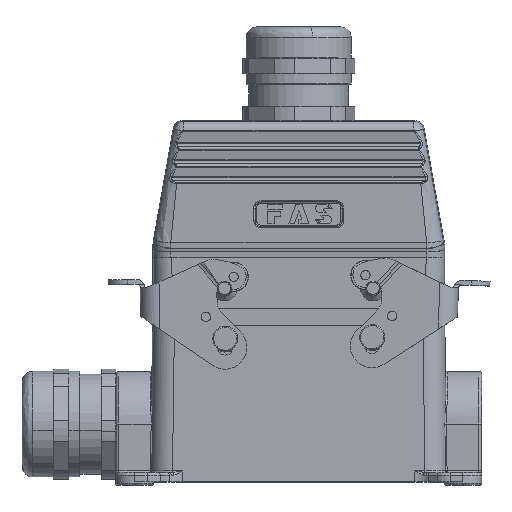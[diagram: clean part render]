
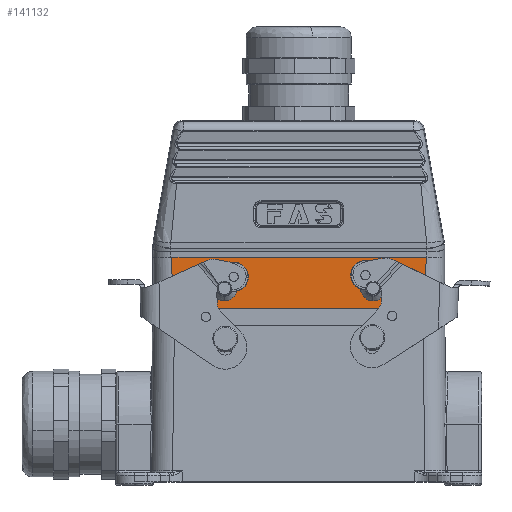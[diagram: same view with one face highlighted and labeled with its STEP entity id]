
A CAD part, top view. The second image highlights one B-rep face of the part: STEP entity #141132.
In plain terms, the highlighted planar face has unit normal (0, 0, 1) as drawn and (0, -1, 0) by its records, which use the part's own axes.
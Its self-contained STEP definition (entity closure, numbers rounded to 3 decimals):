
#1984 = EDGE_LOOP ( 'NONE', ( #87911, #29042, #147138, #83844 ) ) ;
#2929 = VERTEX_POINT ( 'NONE', #111367 ) ;
#3405 = VERTEX_POINT ( 'NONE', #132775 ) ;
#10466 = CARTESIAN_POINT ( 'NONE',  ( -40.713, -21.5, 13.357 ) ) ;
#11275 = CARTESIAN_POINT ( 'NONE',  ( -40.206, -21.5, 4.795 ) ) ;
#14147 = AXIS2_PLACEMENT_3D ( 'NONE', #107179, #165783, #66677 ) ;
#21321 = EDGE_CURVE ( 'NONE', #103584, #118103, #116124, .T. ) ;
#23188 = CARTESIAN_POINT ( 'NONE',  ( -40.498, -21.5, 9.438 ) ) ;
#24810 = CARTESIAN_POINT ( 'NONE',  ( -40.422, -21.5, 8.183 ) ) ;
#25754 = B_SPLINE_CURVE_WITH_KNOTS ( 'NONE', 3,
 ( #64434, #39128, #138865, #10466, #35826, #88153, #153170, #37478, #165874, #115927, #140484, #61953, #23188, #139694, #50118, #51750, #49286, #24810, #90627, #61157, #89785, #75416, #113463, #126958, #11275, #142194, #127773, #63613, #166710, #165031, #125334, #153978, #112665, #50919 ),
 .UNSPECIFIED., .F., .F.,
 ( 4, 1, 1, 1, 1, 1, 2, 2, 1, 1, 1, 1, 1, 1, 1, 2, 2, 1, 1, 1, 1, 1, 1, 2, 2, 4 ),
 ( 0., 0.125, 0.188, 0.219, 0.234, 0.242, 0.246, 0.25, 0.375, 0.438, 0.469, 0.484, 0.492, 0.496, 0.498, 0.499, 0.5, 0.625, 0.688, 0.719, 0.734, 0.742, 0.746, 0.748, 0.75, 1. ),
 .UNSPECIFIED. ) ;
#26122 = ORIENTED_EDGE ( 'NONE', *, *, #135125, .T. ) ;
#29042 = ORIENTED_EDGE ( 'NONE', *, *, #122684, .T. ) ;
#30920 = DIRECTION ( 'NONE',  ( 0., 0., 1. ) ) ;
#33328 = CARTESIAN_POINT ( 'NONE',  ( -23.75, -21.5, 2.3 ) ) ;
#34500 = CIRCLE ( 'NONE', #139719, 4. ) ;
#35826 = CARTESIAN_POINT ( 'NONE',  ( -40.684, -21.5, 12.782 ) ) ;
#37478 = CARTESIAN_POINT ( 'NONE',  ( -40.659, -21.5, 12.295 ) ) ;
#38889 = ORIENTED_EDGE ( 'NONE', *, *, #164319, .T. ) ;
#39128 = CARTESIAN_POINT ( 'NONE',  ( -40.815, -21.5, 15.576 ) ) ;
#40715 = DIRECTION ( 'NONE',  ( 0., 0., 1. ) ) ;
#40758 = CARTESIAN_POINT ( 'NONE',  ( -73.25, -21.5, 0. ) ) ;
#41039 = AXIS2_PLACEMENT_3D ( 'NONE', #159229, #147454, #30920 ) ;
#42408 = CARTESIAN_POINT ( 'NONE',  ( -23.75, -21.5, 6.3 ) ) ;
#46016 = DIRECTION ( 'NONE',  ( 0., 0., 1. ) ) ;
#47693 = CARTESIAN_POINT ( 'NONE',  ( -40.845, -21.5, 16.289 ) ) ;
#47997 = LINE ( 'NONE', #99498, #151557 ) ;
#49286 = CARTESIAN_POINT ( 'NONE',  ( -40.424, -21.5, 8.225 ) ) ;
#50118 = CARTESIAN_POINT ( 'NONE',  ( -40.44, -21.5, 8.473 ) ) ;
#50794 = EDGE_CURVE ( 'NONE', #118103, #2929, #25754, .T. ) ;
#50919 = CARTESIAN_POINT ( 'NONE',  ( -39.889, -21.5, 0. ) ) ;
#51750 = CARTESIAN_POINT ( 'NONE',  ( -40.429, -21.5, 8.308 ) ) ;
#57299 = CIRCLE ( 'NONE', #41039, 4. ) ;
#61157 = CARTESIAN_POINT ( 'NONE',  ( -40.42, -21.5, 8.154 ) ) ;
#61953 = CARTESIAN_POINT ( 'NONE',  ( -40.571, -21.5, 10.662 ) ) ;
#63613 = CARTESIAN_POINT ( 'NONE',  ( -40.165, -21.5, 4.163 ) ) ;
#64434 = CARTESIAN_POINT ( 'NONE',  ( -40.845, -21.5, 16.289 ) ) ;
#66677 = DIRECTION ( 'NONE',  ( 0., 0., 1. ) ) ;
#69442 = VERTEX_POINT ( 'NONE', #148587 ) ;
#71366 = CARTESIAN_POINT ( 'NONE',  ( 23.75, -21.5, 6.3 ) ) ;
#75416 = CARTESIAN_POINT ( 'NONE',  ( -40.387, -21.5, 7.634 ) ) ;
#79529 = DIRECTION ( 'NONE',  ( 0., 0., -1. ) ) ;
#80878 = CARTESIAN_POINT ( 'NONE',  ( 40.377, -21.5, 7.314 ) ) ;
#83844 = ORIENTED_EDGE ( 'NONE', *, *, #21321, .T. ) ;
#87911 = ORIENTED_EDGE ( 'NONE', *, *, #50794, .T. ) ;
#88153 = CARTESIAN_POINT ( 'NONE',  ( -40.669, -21.5, 12.497 ) ) ;
#89402 = ORIENTED_EDGE ( 'NONE', *, *, #158163, .T. ) ;
#89785 = CARTESIAN_POINT ( 'NONE',  ( -40.419, -21.5, 8.146 ) ) ;
#90627 = CARTESIAN_POINT ( 'NONE',  ( -40.421, -21.5, 8.166 ) ) ;
#93107 = CARTESIAN_POINT ( 'NONE',  ( 40.845, -21.5, 16.289 ) ) ;
#93922 = FACE_BOUND ( 'NONE', #142730, .T. ) ;
#97227 = VERTEX_POINT ( 'NONE', #165426 ) ;
#99498 = CARTESIAN_POINT ( 'NONE',  ( -13.25, -21.5, 0. ) ) ;
#103320 = VERTEX_POINT ( 'NONE', #33328 ) ;
#103584 = VERTEX_POINT ( 'NONE', #93107 ) ;
#103960 = AXIS2_PLACEMENT_3D ( 'NONE', #71366, #133044, #46016 ) ;
#106272 = EDGE_CURVE ( 'NONE', #97227, #103320, #34500, .T. ) ;
#107069 = AXIS2_PLACEMENT_3D ( 'NONE', #40758, #131909, #79529 ) ;
#107179 = CARTESIAN_POINT ( 'NONE',  ( 23.75, -21.5, 6.3 ) ) ;
#111367 = CARTESIAN_POINT ( 'NONE',  ( -39.889, -21.5, 0. ) ) ;
#112665 = CARTESIAN_POINT ( 'NONE',  ( -39.97, -21.5, 1.189 ) ) ;
#112752 = CARTESIAN_POINT ( 'NONE',  ( 39.889, -21.5, 0. ) ) ;
#113463 = CARTESIAN_POINT ( 'NONE',  ( -40.331, -21.5, 6.744 ) ) ;
#115322 = CARTESIAN_POINT ( 'NONE',  ( -73.25, -21.5, 16.289 ) ) ;
#115927 = CARTESIAN_POINT ( 'NONE',  ( -40.656, -21.5, 12.233 ) ) ;
#116124 = LINE ( 'NONE', #115322, #128646 ) ;
#117601 = FACE_OUTER_BOUND ( 'NONE', #1984, .T. ) ;
#118103 = VERTEX_POINT ( 'NONE', #47693 ) ;
#122684 = EDGE_CURVE ( 'NONE', #2929, #126599, #47997, .T. ) ;
#124935 = EDGE_CURVE ( 'NONE', #103584, #126599, #149655, .T. ) ;
#125334 = CARTESIAN_POINT ( 'NONE',  ( -40.16, -21.5, 4.082 ) ) ;
#126599 = VERTEX_POINT ( 'NONE', #112752 ) ;
#126958 = CARTESIAN_POINT ( 'NONE',  ( -40.25, -21.5, 5.482 ) ) ;
#127773 = CARTESIAN_POINT ( 'NONE',  ( -40.171, -21.5, 4.255 ) ) ;
#128646 = VECTOR ( 'NONE', #129603, 1000. ) ;
#129603 = DIRECTION ( 'NONE',  ( -1., 0., 0. ) ) ;
#131909 = DIRECTION ( 'NONE',  ( 0., -1., 0. ) ) ;
#132755 = PLANE ( 'NONE',  #107069 ) ;
#132775 = CARTESIAN_POINT ( 'NONE',  ( 23.75, -21.5, 10.3 ) ) ;
#133044 = DIRECTION ( 'NONE',  ( 0., 1., 0. ) ) ;
#135125 = EDGE_CURVE ( 'NONE', #3405, #69442, #146317, .T. ) ;
#135808 = CARTESIAN_POINT ( 'NONE',  ( 39.889, -21.5, 0. ) ) ;
#138865 = CARTESIAN_POINT ( 'NONE',  ( -40.769, -21.5, 14.531 ) ) ;
#139694 = CARTESIAN_POINT ( 'NONE',  ( -40.46, -21.5, 8.799 ) ) ;
#139719 = AXIS2_PLACEMENT_3D ( 'NONE', #42408, #156399, #40715 ) ;
#140484 = CARTESIAN_POINT ( 'NONE',  ( -40.623, -21.5, 11.618 ) ) ;
#140737 = EDGE_LOOP ( 'NONE', ( #26122, #89402 ) ) ;
#141132 = ADVANCED_FACE ( 'NONE', ( #117601, #156440, #93922 ), #132755, .T. ) ;
#142194 = CARTESIAN_POINT ( 'NONE',  ( -40.183, -21.5, 4.437 ) ) ;
#142730 = EDGE_LOOP ( 'NONE', ( #145732, #38889 ) ) ;
#145732 = ORIENTED_EDGE ( 'NONE', *, *, #106272, .T. ) ;
#146317 = CIRCLE ( 'NONE', #14147, 4. ) ;
#147138 = ORIENTED_EDGE ( 'NONE', *, *, #124935, .F. ) ;
#147454 = DIRECTION ( 'NONE',  ( 0., 1., 0. ) ) ;
#148587 = CARTESIAN_POINT ( 'NONE',  ( 23.75, -21.5, 2.3 ) ) ;
#149655 = B_SPLINE_CURVE_WITH_KNOTS ( 'NONE', 3,
 ( #160292, #159436, #80878, #158633, #135808 ),
 .UNSPECIFIED., .F., .F.,
 ( 4, 1, 4 ),
 ( 0., 0.652, 1. ),
 .UNSPECIFIED. ) ;
#151007 = DIRECTION ( 'NONE',  ( 1., 0., 0. ) ) ;
#151557 = VECTOR ( 'NONE', #151007, 1000. ) ;
#153170 = CARTESIAN_POINT ( 'NONE',  ( -40.662, -21.5, 12.356 ) ) ;
#153978 = CARTESIAN_POINT ( 'NONE',  ( -40.06, -21.5, 2.546 ) ) ;
#156399 = DIRECTION ( 'NONE',  ( 0., 1., 0. ) ) ;
#156440 = FACE_BOUND ( 'NONE', #140737, .T. ) ;
#158163 = EDGE_CURVE ( 'NONE', #69442, #3405, #163327, .T. ) ;
#158633 = CARTESIAN_POINT ( 'NONE',  ( 40.012, -21.5, 1.888 ) ) ;
#159229 = CARTESIAN_POINT ( 'NONE',  ( -23.75, -21.5, 6.3 ) ) ;
#159436 = CARTESIAN_POINT ( 'NONE',  ( 40.706, -21.5, 12.744 ) ) ;
#160292 = CARTESIAN_POINT ( 'NONE',  ( 40.845, -21.5, 16.289 ) ) ;
#163327 = CIRCLE ( 'NONE', #103960, 4. ) ;
#164319 = EDGE_CURVE ( 'NONE', #103320, #97227, #57299, .T. ) ;
#165031 = CARTESIAN_POINT ( 'NONE',  ( -40.161, -21.5, 4.097 ) ) ;
#165426 = CARTESIAN_POINT ( 'NONE',  ( -23.75, -21.5, 10.3 ) ) ;
#165783 = DIRECTION ( 'NONE',  ( 0., 1., 0. ) ) ;
#165874 = CARTESIAN_POINT ( 'NONE',  ( -40.657, -21.5, 12.255 ) ) ;
#166710 = CARTESIAN_POINT ( 'NONE',  ( -40.163, -21.5, 4.123 ) ) ;
